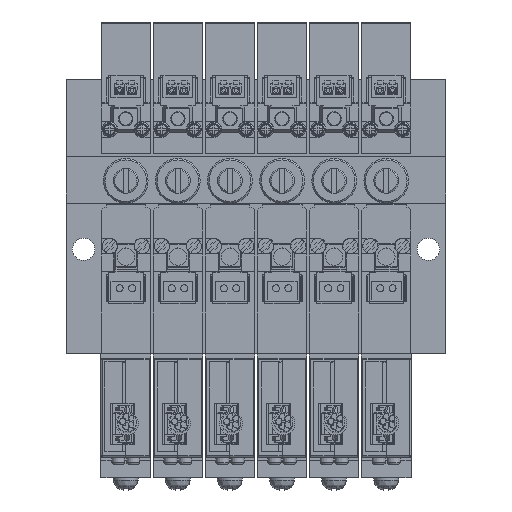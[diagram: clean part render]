
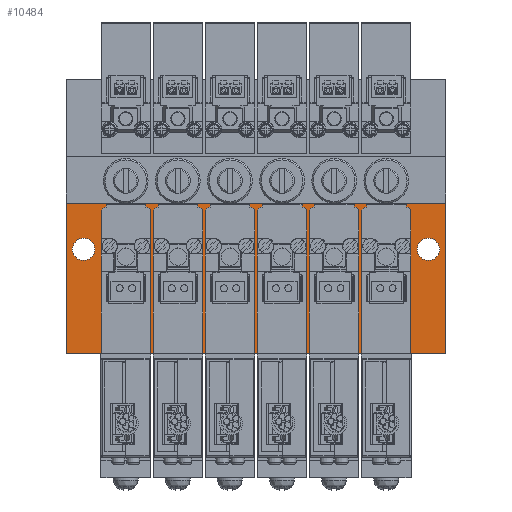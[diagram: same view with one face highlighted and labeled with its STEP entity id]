
A CAD part, top view. The second image highlights one B-rep face of the part: STEP entity #10484.
In plain terms, the highlighted planar face has unit normal (0, 0, 1).
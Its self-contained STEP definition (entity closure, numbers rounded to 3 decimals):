
#10484=ADVANCED_FACE('',(#18212,#18213,#18214),#18215,.F.);
#18212=FACE_BOUND('',#33926,.T.);
#18213=FACE_BOUND('',#33927,.T.);
#18214=FACE_OUTER_BOUND('',#33928,.T.);
#18215=PLANE('',#33929);
#33926=EDGE_LOOP('',(#51840));
#33927=EDGE_LOOP('',(#51841));
#33928=EDGE_LOOP('',(#51842,#51843,#51844,#51845));
#33929=AXIS2_PLACEMENT_3D('',#51846,#51847,#51848);
#51840=ORIENTED_EDGE('',*,*,#112503,.F.);
#51841=ORIENTED_EDGE('',*,*,#112504,.F.);
#51842=ORIENTED_EDGE('',*,*,#112500,.F.);
#51843=ORIENTED_EDGE('',*,*,#112513,.F.);
#51844=ORIENTED_EDGE('',*,*,#112469,.T.);
#51845=ORIENTED_EDGE('',*,*,#112512,.T.);
#51846=CARTESIAN_POINT('',(-76.5,30.3,14.8));
#51847=DIRECTION('',(0.0,0.0,-1.0));
#51848=DIRECTION('',(1.0,0.0,0.0));
#112469=EDGE_CURVE('',#132044,#132042,#132045,.T.);
#112500=EDGE_CURVE('',#132099,#132101,#132102,.T.);
#112503=EDGE_CURVE('',#132106,#132106,#132107,.T.);
#112504=EDGE_CURVE('',#132108,#132108,#132109,.T.);
#112512=EDGE_CURVE('',#132042,#132101,#132123,.T.);
#112513=EDGE_CURVE('',#132044,#132099,#132124,.T.);
#132042=VERTEX_POINT('',#164881);
#132044=VERTEX_POINT('',#164884);
#132045=LINE('',#164885,#164886);
#132099=VERTEX_POINT('',#164953);
#132101=VERTEX_POINT('',#164956);
#132102=LINE('',#164957,#164958);
#132106=VERTEX_POINT('',#164964);
#132107=CIRCLE('',#164965,2.25);
#132108=VERTEX_POINT('',#164966);
#132109=CIRCLE('',#164967,2.25);
#132123=LINE('',#164982,#164983);
#132124=LINE('',#164984,#164985);
#164881=CARTESIAN_POINT('',(-76.5,0.,14.8));
#164884=CARTESIAN_POINT('',(-76.5,30.3,14.8));
#164885=CARTESIAN_POINT('',(-76.5,30.3,14.8));
#164886=VECTOR('',#217044,1.0);
#164953=CARTESIAN_POINT('',(0.0,30.3,14.8));
#164956=CARTESIAN_POINT('',(0.0,0.,14.8));
#164957=CARTESIAN_POINT('',(0.0,30.3,14.8));
#164958=VECTOR('',#217107,1.0);
#164964=CARTESIAN_POINT('',(-1.25,21.0,14.8));
#164965=AXIS2_PLACEMENT_3D('',#217110,#217111,#217112);
#164966=CARTESIAN_POINT('',(-70.75,21.0,14.8));
#164967=AXIS2_PLACEMENT_3D('',#217113,#217114,#217115);
#164982=CARTESIAN_POINT('',(-76.5,0.,14.8));
#164983=VECTOR('',#217135,1.0);
#164984=CARTESIAN_POINT('',(-76.5,30.3,14.8));
#164985=VECTOR('',#217136,1.0);
#217044=DIRECTION('',(0.0,-1.0,0.0));
#217107=DIRECTION('',(0.0,-1.0,0.0));
#217110=CARTESIAN_POINT('',(-3.5,21.0,14.8));
#217111=DIRECTION('',(0.0,0.0,1.0));
#217112=DIRECTION('',(1.0,0.0,0.0));
#217113=CARTESIAN_POINT('',(-73.0,21.0,14.8));
#217114=DIRECTION('',(0.0,0.0,1.0));
#217115=DIRECTION('',(1.0,0.0,0.0));
#217135=DIRECTION('',(1.0,0.0,0.0));
#217136=DIRECTION('',(1.0,0.0,0.0));
